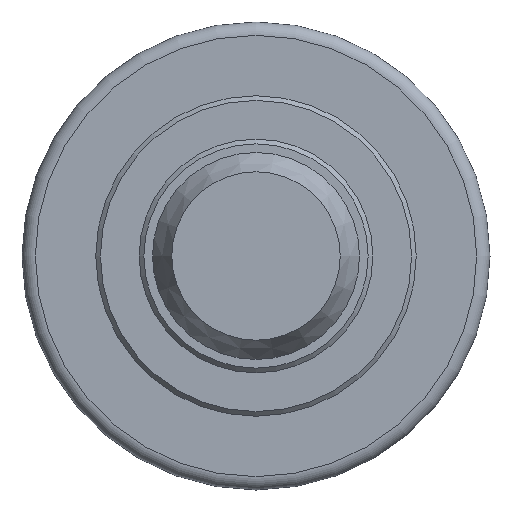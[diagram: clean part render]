
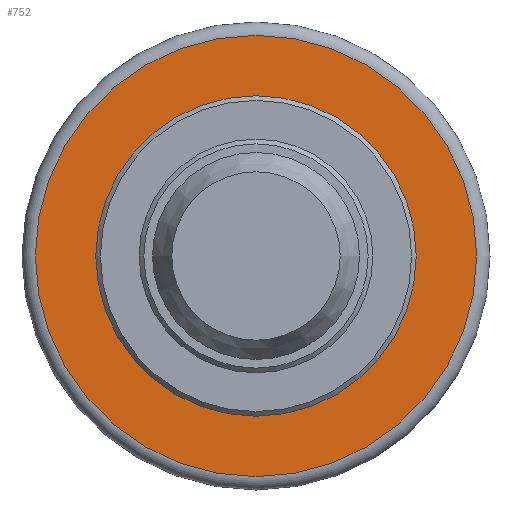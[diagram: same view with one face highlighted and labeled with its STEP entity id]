
A CAD part, left-side view. The second image highlights one B-rep face of the part: STEP entity #752.
In plain terms, the highlighted planar face has unit normal (-1, 0, 0).
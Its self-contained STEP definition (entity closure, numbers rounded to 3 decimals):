
#32=FACE_BOUND('',#140,.T.);
#54=PLANE('',#845);
#91=FACE_OUTER_BOUND('',#139,.T.);
#139=EDGE_LOOP('',(#640));
#140=EDGE_LOOP('',(#641));
#278=CIRCLE('',#841,33.05);
#281=CIRCLE('',#846,23.);
#360=VERTEX_POINT('',#1530);
#363=VERTEX_POINT('',#1540);
#455=EDGE_CURVE('',#360,#360,#278,.T.);
#459=EDGE_CURVE('',#363,#363,#281,.T.);
#640=ORIENTED_EDGE('',*,*,#455,.F.);
#641=ORIENTED_EDGE('',*,*,#459,.T.);
#752=ADVANCED_FACE('',(#91,#32),#54,.T.);
#841=AXIS2_PLACEMENT_3D('',#1532,#1023,#1024);
#845=AXIS2_PLACEMENT_3D('',#1539,#1032,#1033);
#846=AXIS2_PLACEMENT_3D('',#1541,#1034,#1035);
#1023=DIRECTION('center_axis',(1.,0.,0.));
#1024=DIRECTION('ref_axis',(0.,-1.,0.));
#1032=DIRECTION('center_axis',(-1.,0.,0.));
#1033=DIRECTION('ref_axis',(0.,0.,1.));
#1034=DIRECTION('center_axis',(1.,0.,0.));
#1035=DIRECTION('ref_axis',(0.,1.,0.));
#1530=CARTESIAN_POINT('',(-18.,0.,33.05));
#1532=CARTESIAN_POINT('Origin',(-18.,0.,0.));
#1539=CARTESIAN_POINT('Origin',(-18.,29.025,0.));
#1540=CARTESIAN_POINT('',(-18.,-23.,0.));
#1541=CARTESIAN_POINT('Origin',(-18.,0.,0.));
